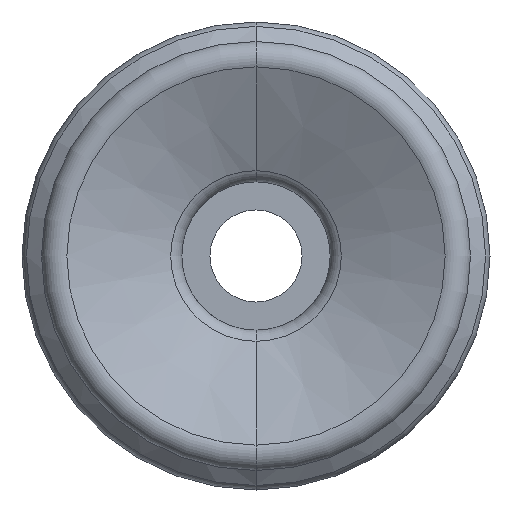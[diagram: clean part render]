
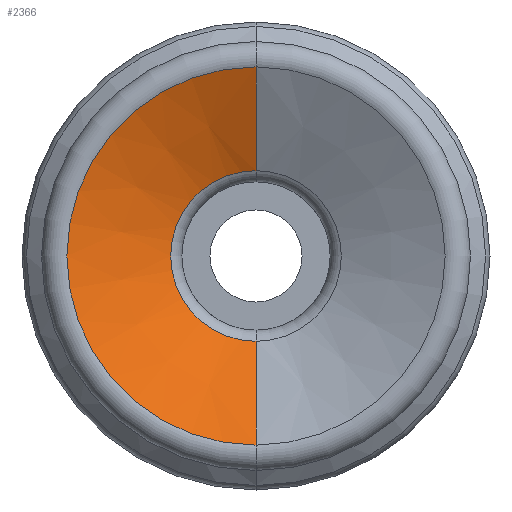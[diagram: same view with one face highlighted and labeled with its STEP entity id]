
A CAD part, front view. The second image highlights one B-rep face of the part: STEP entity #2366.
In plain terms, the highlighted conical face has half-angle 64.667 degrees and reference radius 4.85 mm.
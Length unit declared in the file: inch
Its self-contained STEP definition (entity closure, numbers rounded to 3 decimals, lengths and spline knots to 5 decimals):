
#11 = CIRCLE ( 'NONE', #753, 0.19093 ) ;
#42 = DIRECTION ( 'NONE',  ( 0., -0.428, -0.904 ) ) ;
#97 = CONICAL_SURFACE ( 'NONE', #2333, 0.19093, 1.129 ) ;
#167 = CARTESIAN_POINT ( 'NONE',  ( 0., 0.05136, 0. ) ) ;
#267 = CARTESIAN_POINT ( 'NONE',  ( 0., 0.00173, -0.19093 ) ) ;
#305 = ORIENTED_EDGE ( 'NONE', *, *, #2498, .F. ) ;
#483 = EDGE_CURVE ( 'NONE', #1004, #1152, #11, .T. ) ;
#559 = EDGE_LOOP ( 'NONE', ( #305, #1066, #1180, #1565 ) ) ;
#562 = CIRCLE ( 'NONE', #2427, 0.0861 ) ;
#606 = EDGE_CURVE ( 'NONE', #1965, #1004, #1566, .T. ) ;
#671 = CARTESIAN_POINT ( 'NONE',  ( 0., 0.05136, 0.0861 ) ) ;
#753 = AXIS2_PLACEMENT_3D ( 'NONE', #2437, #2066, #2421 ) ;
#849 = DIRECTION ( 'NONE',  ( 0., 0., -1. ) ) ;
#862 = CARTESIAN_POINT ( 'NONE',  ( 0., 0.00173, 0. ) ) ;
#875 = DIRECTION ( 'NONE',  ( 0., 0., -1. ) ) ;
#1004 = VERTEX_POINT ( 'NONE', #1479 ) ;
#1066 = ORIENTED_EDGE ( 'NONE', *, *, #606, .T. ) ;
#1075 = DIRECTION ( 'NONE',  ( 0., -1., 0. ) ) ;
#1152 = VERTEX_POINT ( 'NONE', #2200 ) ;
#1155 = VECTOR ( 'NONE', #42, 39.37008 ) ;
#1180 = ORIENTED_EDGE ( 'NONE', *, *, #483, .T. ) ;
#1255 = EDGE_CURVE ( 'NONE', #2583, #1152, #1849, .T. ) ;
#1479 = CARTESIAN_POINT ( 'NONE',  ( 0., 0.00173, 0.19093 ) ) ;
#1565 = ORIENTED_EDGE ( 'NONE', *, *, #1255, .F. ) ;
#1566 = LINE ( 'NONE', #2458, #2389 ) ;
#1567 = DIRECTION ( 'NONE',  ( 0., -1., 0. ) ) ;
#1827 = DIRECTION ( 'NONE',  ( 0., -0.428, 0.904 ) ) ;
#1849 = LINE ( 'NONE', #267, #1155 ) ;
#1965 = VERTEX_POINT ( 'NONE', #671 ) ;
#2066 = DIRECTION ( 'NONE',  ( 0., -1., 0. ) ) ;
#2200 = CARTESIAN_POINT ( 'NONE',  ( 0., 0.00173, -0.19093 ) ) ;
#2206 = CARTESIAN_POINT ( 'NONE',  ( 0., 0.05136, -0.0861 ) ) ;
#2333 = AXIS2_PLACEMENT_3D ( 'NONE', #862, #1567, #849 ) ;
#2366 = ADVANCED_FACE ( 'NONE', ( #2414 ), #97, .F. ) ;
#2389 = VECTOR ( 'NONE', #1827, 39.37008 ) ;
#2414 = FACE_OUTER_BOUND ( 'NONE', #559, .T. ) ;
#2421 = DIRECTION ( 'NONE',  ( 0., 0., -1. ) ) ;
#2427 = AXIS2_PLACEMENT_3D ( 'NONE', #167, #1075, #875 ) ;
#2437 = CARTESIAN_POINT ( 'NONE',  ( 0., 0.00173, 0. ) ) ;
#2458 = CARTESIAN_POINT ( 'NONE',  ( 0., 0.00173, 0.19093 ) ) ;
#2498 = EDGE_CURVE ( 'NONE', #1965, #2583, #562, .T. ) ;
#2583 = VERTEX_POINT ( 'NONE', #2206 ) ;
